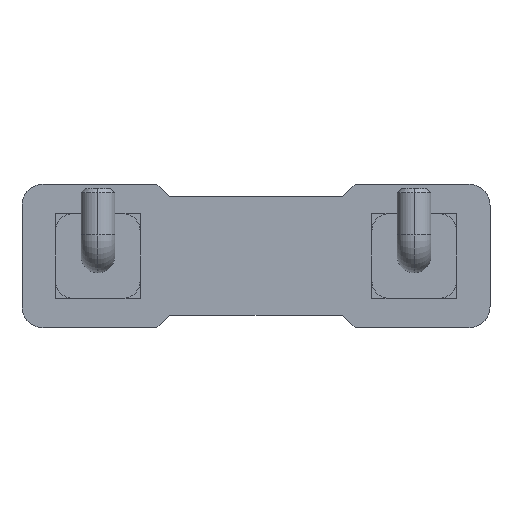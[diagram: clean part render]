
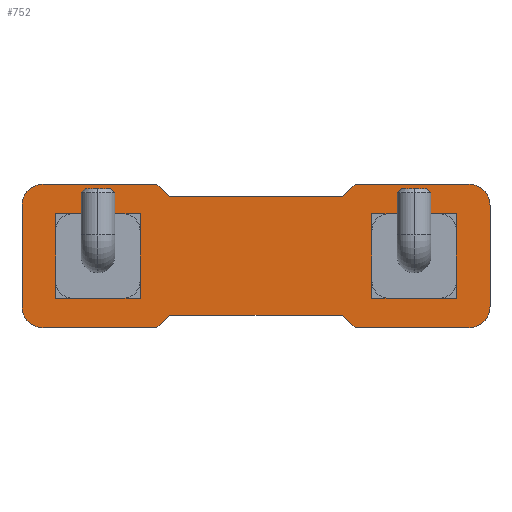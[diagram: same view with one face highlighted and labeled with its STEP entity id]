
A CAD part, left-side view. The second image highlights one B-rep face of the part: STEP entity #752.
In plain terms, the highlighted planar face has unit normal (-1, 0, 0).
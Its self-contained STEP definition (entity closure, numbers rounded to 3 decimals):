
#1=DIRECTION('',(0.,0.707,0.707));
#2=VECTOR('',#1,0.424);
#3=CARTESIAN_POINT('',(0.,-2.35,-1.7));
#4=LINE('',#3,#2);
#5=DIRECTION('',(0.,1.,0.));
#6=VECTOR('',#5,4.1);
#7=CARTESIAN_POINT('',(0.,-2.05,-1.4));
#8=LINE('',#7,#6);
#9=DIRECTION('',(0.,0.707,-0.707));
#10=VECTOR('',#9,0.424);
#11=CARTESIAN_POINT('',(0.,2.05,-1.4));
#12=LINE('',#11,#10);
#13=DIRECTION('',(0.,1.,0.));
#14=VECTOR('',#13,2.7);
#15=CARTESIAN_POINT('',(0.,2.35,-1.7));
#16=LINE('',#15,#14);
#17=CARTESIAN_POINT('',(0.,5.05,-1.2));
#18=DIRECTION('',(1.,0.,0.));
#19=DIRECTION('',(0.,0.,-1.));
#20=AXIS2_PLACEMENT_3D('',#17,#18,#19);
#22=DIRECTION('',(0.,0.,1.));
#23=VECTOR('',#22,2.4);
#24=CARTESIAN_POINT('',(0.,5.55,-1.2));
#25=LINE('',#24,#23);
#26=CARTESIAN_POINT('',(0.,5.05,1.2));
#27=DIRECTION('',(1.,0.,0.));
#28=DIRECTION('',(0.,1.,0.));
#29=AXIS2_PLACEMENT_3D('',#26,#27,#28);
#31=DIRECTION('',(0.,-1.,0.));
#32=VECTOR('',#31,2.7);
#33=CARTESIAN_POINT('',(0.,5.05,1.7));
#34=LINE('',#33,#32);
#35=DIRECTION('',(0.,-0.707,-0.707));
#36=VECTOR('',#35,0.424);
#37=CARTESIAN_POINT('',(0.,2.35,1.7));
#38=LINE('',#37,#36);
#39=DIRECTION('',(0.,-1.,0.));
#40=VECTOR('',#39,4.1);
#41=CARTESIAN_POINT('',(0.,2.05,1.4));
#42=LINE('',#41,#40);
#43=DIRECTION('',(0.,-0.707,0.707));
#44=VECTOR('',#43,0.424);
#45=CARTESIAN_POINT('',(0.,-2.05,1.4));
#46=LINE('',#45,#44);
#47=DIRECTION('',(0.,-1.,0.));
#48=VECTOR('',#47,2.7);
#49=CARTESIAN_POINT('',(0.,-2.35,1.7));
#50=LINE('',#49,#48);
#51=CARTESIAN_POINT('',(0.,-5.05,1.2));
#52=DIRECTION('',(1.,0.,0.));
#53=DIRECTION('',(0.,0.,1.));
#54=AXIS2_PLACEMENT_3D('',#51,#52,#53);
#56=DIRECTION('',(0.,0.,-1.));
#57=VECTOR('',#56,2.4);
#58=CARTESIAN_POINT('',(0.,-5.55,1.2));
#59=LINE('',#58,#57);
#60=CARTESIAN_POINT('',(0.,-5.05,-1.2));
#61=DIRECTION('',(1.,0.,0.));
#62=DIRECTION('',(0.,-1.,0.));
#63=AXIS2_PLACEMENT_3D('',#60,#61,#62);
#65=DIRECTION('',(0.,1.,0.));
#66=VECTOR('',#65,2.7);
#67=CARTESIAN_POINT('',(0.,-5.05,-1.7));
#68=LINE('',#67,#66);
#69=DIRECTION('',(0.,0.,-1.));
#70=VECTOR('',#69,2.);
#71=CARTESIAN_POINT('',(0.,-4.75,1.));
#72=LINE('',#71,#70);
#93=DIRECTION('',(0.,1.,0.));
#94=VECTOR('',#93,2.);
#95=CARTESIAN_POINT('',(0.,-4.75,-1.));
#96=LINE('',#95,#94);
#101=DIRECTION('',(0.,0.,1.));
#102=VECTOR('',#101,2.);
#103=CARTESIAN_POINT('',(0.,-2.75,-1.));
#104=LINE('',#103,#102);
#109=DIRECTION('',(0.,-1.,0.));
#110=VECTOR('',#109,2.);
#111=CARTESIAN_POINT('',(0.,-2.75,1.));
#112=LINE('',#111,#110);
#212=DIRECTION('',(0.,1.,0.));
#213=VECTOR('',#212,2.);
#214=CARTESIAN_POINT('',(0.,2.75,-1.));
#215=LINE('',#214,#213);
#220=DIRECTION('',(0.,0.,1.));
#221=VECTOR('',#220,2.);
#222=CARTESIAN_POINT('',(0.,4.75,-1.));
#223=LINE('',#222,#221);
#228=DIRECTION('',(0.,-1.,0.));
#229=VECTOR('',#228,2.);
#230=CARTESIAN_POINT('',(0.,4.75,1.));
#231=LINE('',#230,#229);
#236=DIRECTION('',(0.,0.,-1.));
#237=VECTOR('',#236,2.);
#238=CARTESIAN_POINT('',(0.,2.75,1.));
#239=LINE('',#238,#237);
#533=CARTESIAN_POINT('',(0.,-2.35,-1.7));
#534=CARTESIAN_POINT('',(0.,-2.05,-1.4));
#535=VERTEX_POINT('',#533);
#536=VERTEX_POINT('',#534);
#537=CARTESIAN_POINT('',(0.,2.05,-1.4));
#538=VERTEX_POINT('',#537);
#539=CARTESIAN_POINT('',(0.,2.35,-1.7));
#540=VERTEX_POINT('',#539);
#541=CARTESIAN_POINT('',(0.,5.05,-1.7));
#542=VERTEX_POINT('',#541);
#543=CARTESIAN_POINT('',(0.,5.55,-1.2));
#544=VERTEX_POINT('',#543);
#545=CARTESIAN_POINT('',(0.,5.55,1.2));
#546=VERTEX_POINT('',#545);
#547=CARTESIAN_POINT('',(0.,5.05,1.7));
#548=VERTEX_POINT('',#547);
#549=CARTESIAN_POINT('',(0.,2.35,1.7));
#550=VERTEX_POINT('',#549);
#551=CARTESIAN_POINT('',(0.,2.05,1.4));
#552=VERTEX_POINT('',#551);
#553=CARTESIAN_POINT('',(0.,-2.05,1.4));
#554=VERTEX_POINT('',#553);
#555=CARTESIAN_POINT('',(0.,-2.35,1.7));
#556=VERTEX_POINT('',#555);
#557=CARTESIAN_POINT('',(0.,-5.05,1.7));
#558=VERTEX_POINT('',#557);
#559=CARTESIAN_POINT('',(0.,-5.55,1.2));
#560=VERTEX_POINT('',#559);
#561=CARTESIAN_POINT('',(0.,-5.55,-1.2));
#562=VERTEX_POINT('',#561);
#563=CARTESIAN_POINT('',(0.,-5.05,-1.7));
#564=VERTEX_POINT('',#563);
#661=CARTESIAN_POINT('',(0.,-4.75,-1.));
#663=VERTEX_POINT('',#661);
#665=CARTESIAN_POINT('',(0.,-2.75,-1.));
#667=VERTEX_POINT('',#665);
#669=CARTESIAN_POINT('',(0.,2.75,-1.));
#671=VERTEX_POINT('',#669);
#673=CARTESIAN_POINT('',(0.,4.75,-1.));
#675=VERTEX_POINT('',#673);
#677=CARTESIAN_POINT('',(0.,-4.75,1.));
#679=VERTEX_POINT('',#677);
#681=CARTESIAN_POINT('',(0.,-2.75,1.));
#683=VERTEX_POINT('',#681);
#685=CARTESIAN_POINT('',(0.,4.75,1.));
#687=VERTEX_POINT('',#685);
#689=CARTESIAN_POINT('',(0.,2.75,1.));
#691=VERTEX_POINT('',#689);
#693=CARTESIAN_POINT('',(0.,0.,0.));
#694=DIRECTION('',(1.,0.,0.));
#695=DIRECTION('',(0.,-1.,0.));
#696=AXIS2_PLACEMENT_3D('',#693,#694,#695);
#697=PLANE('',#696);
#699=ORIENTED_EDGE('',*,*,#698,.T.);
#701=ORIENTED_EDGE('',*,*,#700,.T.);
#703=ORIENTED_EDGE('',*,*,#702,.T.);
#705=ORIENTED_EDGE('',*,*,#704,.T.);
#707=ORIENTED_EDGE('',*,*,#706,.T.);
#709=ORIENTED_EDGE('',*,*,#708,.T.);
#711=ORIENTED_EDGE('',*,*,#710,.T.);
#713=ORIENTED_EDGE('',*,*,#712,.T.);
#715=ORIENTED_EDGE('',*,*,#714,.T.);
#717=ORIENTED_EDGE('',*,*,#716,.T.);
#719=ORIENTED_EDGE('',*,*,#718,.T.);
#721=ORIENTED_EDGE('',*,*,#720,.T.);
#723=ORIENTED_EDGE('',*,*,#722,.T.);
#725=ORIENTED_EDGE('',*,*,#724,.T.);
#727=ORIENTED_EDGE('',*,*,#726,.T.);
#729=ORIENTED_EDGE('',*,*,#728,.T.);
#730=EDGE_LOOP('',(#699,#701,#703,#705,#707,#709,#711,#713,#715,#717,#719,#721,
#723,#725,#727,#729));
#731=FACE_OUTER_BOUND('',#730,.F.);
#733=ORIENTED_EDGE('',*,*,#732,.F.);
#735=ORIENTED_EDGE('',*,*,#734,.F.);
#737=ORIENTED_EDGE('',*,*,#736,.F.);
#739=ORIENTED_EDGE('',*,*,#738,.F.);
#740=EDGE_LOOP('',(#733,#735,#737,#739));
#741=FACE_BOUND('',#740,.F.);
#743=ORIENTED_EDGE('',*,*,#742,.F.);
#745=ORIENTED_EDGE('',*,*,#744,.F.);
#747=ORIENTED_EDGE('',*,*,#746,.F.);
#749=ORIENTED_EDGE('',*,*,#748,.F.);
#750=EDGE_LOOP('',(#743,#745,#747,#749));
#751=FACE_BOUND('',#750,.F.);
#752=ADVANCED_FACE('',(#731,#741,#751),#697,.F.);
#21=CIRCLE('',#20,0.5);
#30=CIRCLE('',#29,0.5);
#55=CIRCLE('',#54,0.5);
#64=CIRCLE('',#63,0.5);
#698=EDGE_CURVE('',#535,#536,#4,.T.);
#700=EDGE_CURVE('',#536,#538,#8,.T.);
#702=EDGE_CURVE('',#538,#540,#12,.T.);
#704=EDGE_CURVE('',#540,#542,#16,.T.);
#706=EDGE_CURVE('',#542,#544,#21,.T.);
#708=EDGE_CURVE('',#544,#546,#25,.T.);
#710=EDGE_CURVE('',#546,#548,#30,.T.);
#712=EDGE_CURVE('',#548,#550,#34,.T.);
#714=EDGE_CURVE('',#550,#552,#38,.T.);
#716=EDGE_CURVE('',#552,#554,#42,.T.);
#718=EDGE_CURVE('',#554,#556,#46,.T.);
#720=EDGE_CURVE('',#556,#558,#50,.T.);
#722=EDGE_CURVE('',#558,#560,#55,.T.);
#724=EDGE_CURVE('',#560,#562,#59,.T.);
#726=EDGE_CURVE('',#562,#564,#64,.T.);
#728=EDGE_CURVE('',#564,#535,#68,.T.);
#732=EDGE_CURVE('',#691,#671,#239,.T.);
#734=EDGE_CURVE('',#687,#691,#231,.T.);
#736=EDGE_CURVE('',#675,#687,#223,.T.);
#738=EDGE_CURVE('',#671,#675,#215,.T.);
#742=EDGE_CURVE('',#679,#663,#72,.T.);
#744=EDGE_CURVE('',#683,#679,#112,.T.);
#746=EDGE_CURVE('',#667,#683,#104,.T.);
#748=EDGE_CURVE('',#663,#667,#96,.T.);
